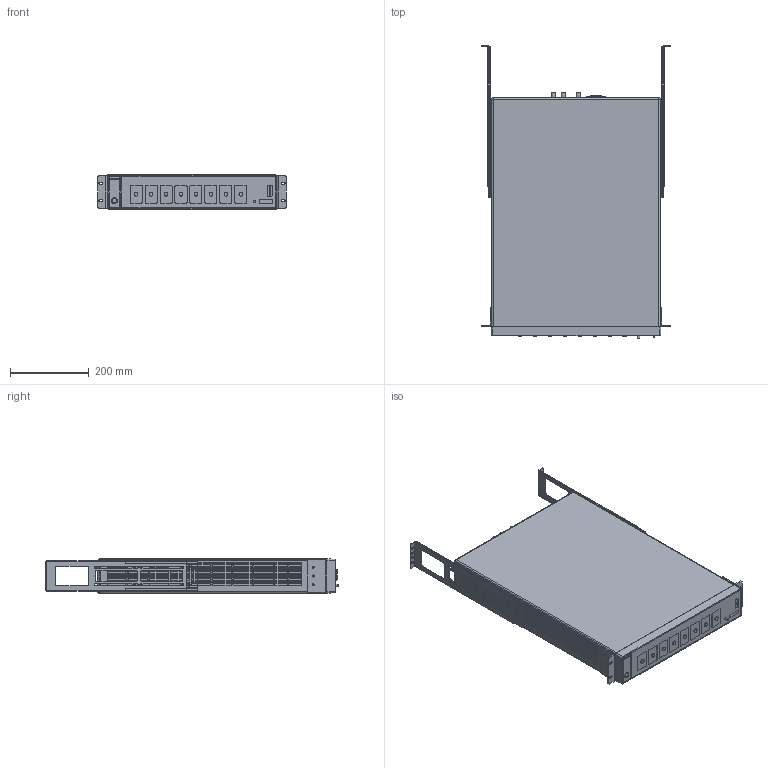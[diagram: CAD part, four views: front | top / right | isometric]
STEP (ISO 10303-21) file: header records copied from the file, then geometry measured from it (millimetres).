
FILE_DESCRIPTION((''),'2;1');
FILE_NAME('TEKTRONIX_MSO58LP_SHELL','2017-08-30T',('nclayton'),(''),'CREO PARAMETRIC BY PTC INC, 2016050','CREO PARAMETRIC BY PTC INC, 2016050','');
FILE_SCHEMA(('CONFIG_CONTROL_DESIGN'));
Products named in the file (1): TEKTRONIX_MSO58LP_SHELL
Bounding box: 479.52 x 744.75 x 87.31 mm (x, y, z)
Volume: 22780538.6 mm3; surface area: 853836.1 mm2
Topology: 3 solids, 9 shells, 2803 faces, 7409 edges, 4872 vertices
Faces by surface type: plane 1558, cylinder 1165, cone 44, extrusion 22, torus 10, sphere 4
Entity records: 102588 total; most frequent: CARTESIAN_POINT 16099, DIRECTION 15268, ORIENTED_EDGE 14818, EDGE_CURVE 7409, AXIS2_PLACEMENT_3D 5201, VECTOR 4866, VERTEX_POINT 4857, LINE 4844
